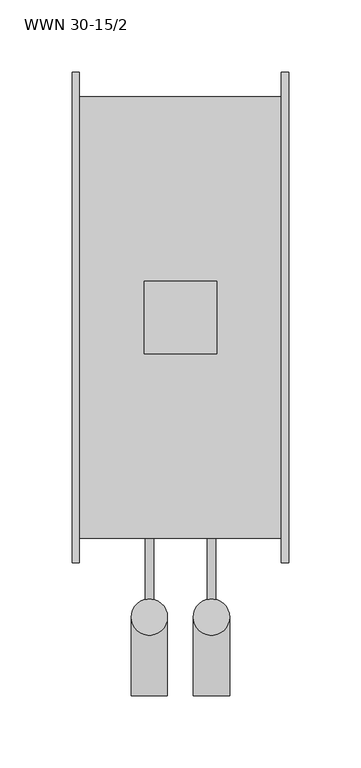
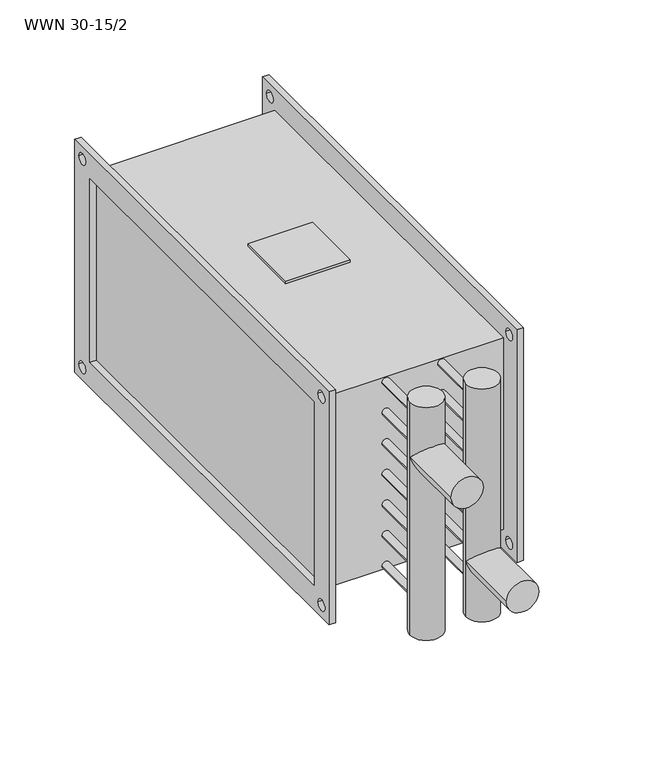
"""IFC4 building model written with IfcOpenShell, lengths in millimetres: proxy geometry, KORF_Нагреватель_Водяной_WWN : WWN 30-15/2."""

import ifcopenshell
import ifcopenshell.guid

model = None  # the IFC model being written
_history = None  # IfcOwnerHistory: only IFC2X3 demands one
_inside = {}  # id of a spatial element -> (the spatial element, [elements in it])
_under = {}  # id of a project, library or spatial element -> (it, [spatial elements below it])
_declared = {}  # id of a project -> (the project, [libraries it declares])
_typed = {}  # id of a type object -> (the type object, [elements of that type])
_made_of = {}  # id of a material, layer set ... -> (it, [elements and type objects made of it])


def new_model(schema):
    """Start an empty IFC model of exactly this schema.

    Asked for "IFC4X3", IfcOpenShell would pick the latest addendum, in which some entities
    have other attributes; the version numbers below select the first issue.
    IFC2X3 requires an IfcOwnerHistory on every rooted entity: one is made here for all.
    """
    global model, _history
    if schema == "IFC4X3":
        model = ifcopenshell.file(schema_version=(4, 3, 0, 0))
    else:
        model = ifcopenshell.file(schema=schema)
    _inside.clear()
    _under.clear()
    _declared.clear()
    _typed.clear()
    _made_of.clear()
    _history = None
    if model.schema == "IFC2X3":
        org = make("IfcOrganization", Name="unknown")
        user = make(
            "IfcPersonAndOrganization",
            ThePerson=make("IfcPerson", FamilyName="unknown"),
            TheOrganization=org,
        )
        app = make(
            "IfcApplication",
            ApplicationDeveloper=org,
            Version="unknown",
            ApplicationFullName="unknown",
            ApplicationIdentifier="unknown",
        )
        _history = make(
            "IfcOwnerHistory",
            OwningUser=user,
            OwningApplication=app,
            ChangeAction="ADDED",
            CreationDate=0,
        )
    return model


def make(cls, **values):
    """One entity of the class cls with the attributes given. An attribute that is None is left unset."""
    return model.create_entity(
        cls, **{name: value for name, value in values.items() if value is not None}
    )


def rooted(cls, **values):
    """An entity with a GlobalId (a new one), such as an element, a storey or a relation."""
    return make(cls, GlobalId=ifcopenshell.guid.new(), OwnerHistory=_history, **values)


def si_unit(unit_type, name, prefix=None):
    """IfcSIUnit, for example si_unit("LENGTHUNIT", "METRE", prefix="MILLI")."""
    return make("IfcSIUnit", UnitType=unit_type, Prefix=prefix, Name=name)


def assignment(units):
    """IfcUnitAssignment: the units of a project."""
    return None if units is None else make("IfcUnitAssignment", Units=units)


def point(xyz):
    """IfcCartesianPoint."""
    return None if xyz is None else make("IfcCartesianPoint", Coordinates=xyz)


def direction(xyz):
    """IfcDirection."""
    return None if xyz is None else make("IfcDirection", DirectionRatios=xyz)


def frame(location, z_axis=None, x_axis=None):
    """IfcAxis2Placement3D, a coordinate frame: its origin and axes. An axis left out is left unset."""
    return make(
        "IfcAxis2Placement3D",
        Location=point(location),
        Axis=direction(z_axis),
        RefDirection=direction(x_axis),
    )


def frame_2d(location, x_axis=None):
    """IfcAxis2Placement2D, a coordinate frame in the plane: its origin and x axis."""
    return make(
        "IfcAxis2Placement2D", Location=point(location), RefDirection=direction(x_axis)
    )


def origin():
    """The frame at (0, 0, 0) with its axes left unset."""
    return frame((0.0, 0.0, 0.0))


def place(relative_to, where):
    """IfcLocalPlacement: puts the frame where relative to a parent placement (None: the world)."""
    return make(
        "IfcLocalPlacement", PlacementRelTo=relative_to, RelativePlacement=where
    )


def context(
    kind, dimensions, precision=None, world=None, true_north=None, identifier=None
):
    """IfcGeometricRepresentationContext, for example the 3D "Model" context."""
    return make(
        "IfcGeometricRepresentationContext",
        ContextIdentifier=identifier,
        ContextType=kind,
        CoordinateSpaceDimension=dimensions,
        Precision=precision,
        WorldCoordinateSystem=world,
        TrueNorth=true_north,
    )


def project(units=None, contexts=None):
    """IfcProject with its units and contexts."""
    return rooted(
        "IfcProject",
        Name="project",
        RepresentationContexts=contexts,
        UnitsInContext=assignment(units),
    )


def spatial(cls, under=None, at=None, **own):
    """A site, building, storey or space (cls), placed at a placement, below another one or the project."""
    s = rooted(cls, ObjectPlacement=at, **own)
    if under is not None:
        _under.setdefault(under.id(), (under, []))[1].append(s)
    return s


def polyline(points):
    """IfcPolyline through the points."""
    return make("IfcPolyline", Points=[point(p) for p in points])


def circle_curve(where, radius):
    """IfcCircle in the frame where."""
    return make("IfcCircle", Position=where, Radius=radius)


def ellipse_curve(where, semi_axis1, semi_axis2):
    """IfcEllipse in the frame where."""
    return make(
        "IfcEllipse", Position=where, SemiAxis1=semi_axis1, SemiAxis2=semi_axis2
    )


def trimmed(basis, trim1, trim2, sense, master):
    """IfcTrimmedCurve: the piece of a basis curve between two trims."""
    return make(
        "IfcTrimmedCurve",
        BasisCurve=basis,
        Trim1=trim1,
        Trim2=trim2,
        SenseAgreement=sense,
        MasterRepresentation=master,
    )


def segment(curve, same_sense, transition):
    """IfcCompositeCurveSegment."""
    return make(
        "IfcCompositeCurveSegment",
        Transition=transition,
        SameSense=same_sense,
        ParentCurve=curve,
    )


def composite_curve(segments, self_intersect=None):
    """IfcCompositeCurve: segments joined end to end."""
    return make("IfcCompositeCurve", Segments=segments, SelfIntersect=self_intersect)


def outline(outer, holes=None, kind="AREA"):
    """IfcArbitraryClosedProfileDef: a profile drawn as a closed curve; with holes, ...WithVoids."""
    if holes is None:
        return make("IfcArbitraryClosedProfileDef", ProfileType=kind, OuterCurve=outer)
    return make(
        "IfcArbitraryProfileDefWithVoids",
        ProfileType=kind,
        OuterCurve=outer,
        InnerCurves=holes,
    )


def extrude(swept, where, along, depth):
    """IfcExtrudedAreaSolid: the profile swept, set in the frame where, extruded along a direction by depth."""
    return make(
        "IfcExtrudedAreaSolid",
        SweptArea=swept,
        Position=where,
        ExtrudedDirection=direction(along),
        Depth=depth,
    )


def shape(context_of_items, identifier, shape_type, items):
    """IfcShapeRepresentation: the items that make up one representation, for example the "Body"."""
    return make(
        "IfcShapeRepresentation",
        ContextOfItems=context_of_items,
        RepresentationIdentifier=identifier,
        RepresentationType=shape_type,
        Items=items,
    )


def source(mapping_origin, context_of_items, identifier, shape_type, items):
    """IfcRepresentationMap: a shape defined once, which mapped items show again and again."""
    return make(
        "IfcRepresentationMap",
        MappingOrigin=mapping_origin,
        MappedRepresentation=shape(context_of_items, identifier, shape_type, items),
    )


def transform(
    local_origin,
    x_axis=None,
    y_axis=None,
    z_axis=None,
    scale=None,
    scale2=None,
    scale3=None,
    uniform=True,
):
    """IfcCartesianTransformationOperator3D, or its non-uniform kind. x_axis, y_axis, z_axis: its Axis1, 2, 3."""
    if uniform:
        return make(
            "IfcCartesianTransformationOperator3D",
            Axis1=direction(x_axis),
            Axis2=direction(y_axis),
            LocalOrigin=point(local_origin),
            Scale=scale,
            Axis3=direction(z_axis),
        )
    return make(
        "IfcCartesianTransformationOperator3DnonUniform",
        Axis1=direction(x_axis),
        Axis2=direction(y_axis),
        LocalOrigin=point(local_origin),
        Scale=scale,
        Axis3=direction(z_axis),
        Scale2=scale2,
        Scale3=scale3,
    )


def mapped(mapping_source, mapping_target):
    """IfcMappedItem: shows the shape of a source again, moved by a transform."""
    return make(
        "IfcMappedItem", MappingSource=mapping_source, MappingTarget=mapping_target
    )


def made_of(thing, what):
    """Note that an element or type object is made of a material, layer set ...; save() writes the relation."""
    if what is not None:
        _made_of.setdefault(what.id(), (what, []))[1].append(thing)
    return thing


def element(
    cls,
    number,
    at=None,
    inside=None,
    cuts=None,
    type_object=None,
    material=None,
    context=None,
    identifier="Body",
    shape_type=None,
    held_by="IfcProductDefinitionShape",
    body=None,
    shapes=None,
    **own,
):
    """One element of the class cls, such as IfcWall. Its Tag is "e" and its number.

    at: its placement. inside: the storey or other place that contains it. cuts: it is an
    opening in that element (IfcRelVoidsElement). A single representation is given by context,
    identifier, shape_type and body (its items); several are given by shapes. held_by: the class
    of the entity that holds the representations. save() writes the other relations.
    """
    e = rooted(cls, Tag="e%d" % number, ObjectPlacement=at, **own)
    if body is not None:
        shapes = [shape(context, identifier, shape_type, body)]
    if shapes is not None:
        e.Representation = make(held_by, Representations=shapes)
    if inside is not None:
        _inside.setdefault(inside.id(), (inside, []))[1].append(e)
    if cuts is not None:
        rooted(
            "IfcRelVoidsElement", RelatingBuildingElement=cuts, RelatedOpeningElement=e
        )
    if type_object is not None:
        _typed.setdefault(type_object.id(), (type_object, []))[1].append(e)
    return made_of(e, material)


def aggregate(whole, parts):
    """IfcRelAggregates: a whole, such as a stair, and the parts it consists of."""
    return rooted("IfcRelAggregates", RelatingObject=whole, RelatedObjects=parts)


def save(model, path):
    """Write the relations noted so far, then the file.

    IfcRelAggregates (storeys below a building ...), IfcRelContainedInSpatialStructure (elements
    in a storey), IfcRelDefinesByType, IfcRelAssociatesMaterial and IfcRelDeclares: one each for
    every whole, place, type object, material and project.
    """
    for whole, parts in _under.values():
        aggregate(whole, parts)
    for where, things in _inside.values():
        rooted(
            "IfcRelContainedInSpatialStructure",
            RelatedElements=things,
            RelatingStructure=where,
        )
    for kind, things in _typed.values():
        rooted("IfcRelDefinesByType", RelatedObjects=things, RelatingType=kind)
    for what, things in _made_of.values():
        rooted("IfcRelAssociatesMaterial", RelatedObjects=things, RelatingMaterial=what)
    for by, libraries in _declared.values():
        rooted("IfcRelDeclares", RelatingContext=by, RelatedDefinitions=libraries)
    model.write(path)


def plane_surface(at):
    """IfcPlane: the flat surface through the origin of the frame at, square to its z axis."""
    return make("IfcPlane", Position=at)


def cylinder_surface(at, radius):
    """IfcCylindricalSurface: all points at the distance radius from the z axis of the frame at."""
    return make("IfcCylindricalSurface", Position=at, Radius=radius)


def advanced_brep(points, edges, surfaces, faces):
    """IfcAdvancedBrep: a solid bounded by faces that lie on surfaces and meet in shared edges.

    An edge is (start, end): straight between two places in points (the first is 0);
    or (start, end, curve); or (start, end, curve, False) where it runs against its curve.
    A face is (place in surfaces, loops), or (place, loops, False) where it looks against
    its surface's normal. A loop lists edges by number (the first is 1), with a minus sign
    where the edge is run from its end to its start. The first loop is the outer one.
    """
    corners = [point(p) for p in points]
    vertices = [make("IfcVertexPoint", VertexGeometry=c) for c in corners]
    made = []
    for start, end, *more in edges:
        made.append(
            make(
                "IfcEdgeCurve",
                EdgeStart=vertices[start],
                EdgeEnd=vertices[end],
                EdgeGeometry=more[0] if more else make("IfcPolyline", Points=[corners[start], corners[end]]),
                SameSense=more[1] if len(more) > 1 else True,
            )
        )
    hull = []
    for where, loops, *sense in faces:
        bounds = []
        for j, loop in enumerate(loops):
            ring = [make("IfcOrientedEdge", EdgeElement=made[abs(k) - 1], Orientation=k > 0) for k in loop]
            bounds.append(
                make(
                    "IfcFaceOuterBound" if j == 0 else "IfcFaceBound",
                    Bound=make("IfcEdgeLoop", EdgeList=ring),
                    Orientation=True,
                )
            )
        hull.append(make("IfcAdvancedFace", Bounds=bounds, FaceSurface=surfaces[where], SameSense=sense[0] if sense else True))
    return make("IfcAdvancedBrep", Outer=make("IfcClosedShell", CfsFaces=hull))


def wwn_30_15_2_497b38e8(model_context):
    return source(origin(), model_context, "Body", "SolidModel", [
        extrude(outline(polyline([(50.0, -25.0), (50.0, 25.0), (100.0, 25.0), (100.0, -25.0), (50.0, -25.0)])), frame((0.0, 0.0, 78.0), z_axis=(0.0, 0.0, 1.0), x_axis=(1.0, 0.0, 0.0)), (0.0, 0.0, 1.0), 2.0),
        extrude(outline(polyline([(-170.0, 95.0), (170.0, 95.0), (170.0, -95.0), (-170.0, -95.0), (-170.0, 95.0)]), holes=[polyline([(-150.0, 75.0), (-150.0, -75.0), (150.0, -75.0), (150.0, 75.0), (-150.0, 75.0)]), composite_curve([segment(trimmed(circle_curve(frame_2d((160.0, 85.0)), 4.5), [point((155.5, 85.0))], [point((164.5, 85.0))], True, "CARTESIAN"), True, "CONTINUOUS"), segment(trimmed(circle_curve(frame_2d((160.0, 85.0)), 4.5), [point((164.5, 85.0))], [point((155.5, 85.0))], True, "CARTESIAN"), True, "CONTINUOUS")], self_intersect=False), composite_curve([segment(trimmed(circle_curve(frame_2d((-160.0, 85.0)), 4.5), [point((-164.5, 85.0))], [point((-155.5, 85.0))], True, "CARTESIAN"), True, "CONTINUOUS"), segment(trimmed(circle_curve(frame_2d((-160.0, 85.0)), 4.5), [point((-155.5, 85.0))], [point((-164.5, 85.0))], True, "CARTESIAN"), True, "CONTINUOUS")], self_intersect=False), composite_curve([segment(trimmed(circle_curve(frame_2d((-160.0, -85.0)), 4.5), [point((-164.5, -85.0))], [point((-155.5, -85.0))], True, "CARTESIAN"), True, "CONTINUOUS"), segment(trimmed(circle_curve(frame_2d((-160.0, -85.0)), 4.5), [point((-155.5, -85.0))], [point((-164.5, -85.0))], True, "CARTESIAN"), True, "CONTINUOUS")], self_intersect=False), composite_curve([segment(trimmed(circle_curve(frame_2d((160.0, -85.0)), 4.5), [point((155.5, -85.0))], [point((164.5, -85.0))], True, "CARTESIAN"), True, "CONTINUOUS"), segment(trimmed(circle_curve(frame_2d((160.0, -85.0)), 4.5), [point((164.5, -85.0))], [point((155.5, -85.0))], True, "CARTESIAN"), True, "CONTINUOUS")], self_intersect=False)]), frame((145.0, 0.0, 0.0), z_axis=(1.0, 0.0, 0.0), x_axis=(0.0, 1.0, 0.0)), (0.0, 0.0, 1.0), 5.0),
        extrude(outline(polyline([(-170.0, 95.0), (170.0, 95.0), (170.0, -95.0), (-170.0, -95.0), (-170.0, 95.0)]), holes=[polyline([(-150.0, 75.0), (-150.0, -75.0), (150.0, -75.0), (150.0, 75.0), (-150.0, 75.0)]), composite_curve([segment(trimmed(circle_curve(frame_2d((160.0, 85.0)), 4.5), [point((155.5, 85.0))], [point((164.5, 85.0))], True, "CARTESIAN"), True, "CONTINUOUS"), segment(trimmed(circle_curve(frame_2d((160.0, 85.0)), 4.5), [point((164.5, 85.0))], [point((155.5, 85.0))], True, "CARTESIAN"), True, "CONTINUOUS")], self_intersect=False), composite_curve([segment(trimmed(circle_curve(frame_2d((-160.0, 85.0)), 4.5), [point((-164.5, 85.0))], [point((-155.5, 85.0))], True, "CARTESIAN"), True, "CONTINUOUS"), segment(trimmed(circle_curve(frame_2d((-160.0, 85.0)), 4.5), [point((-155.5, 85.0))], [point((-164.5, 85.0))], True, "CARTESIAN"), True, "CONTINUOUS")], self_intersect=False), composite_curve([segment(trimmed(circle_curve(frame_2d((-160.0, -85.0)), 4.5), [point((-164.5, -85.0))], [point((-155.5, -85.0))], True, "CARTESIAN"), True, "CONTINUOUS"), segment(trimmed(circle_curve(frame_2d((-160.0, -85.0)), 4.5), [point((-155.5, -85.0))], [point((-164.5, -85.0))], True, "CARTESIAN"), True, "CONTINUOUS")], self_intersect=False), composite_curve([segment(trimmed(circle_curve(frame_2d((160.0, -85.0)), 4.5), [point((155.5, -85.0))], [point((164.5, -85.0))], True, "CARTESIAN"), True, "CONTINUOUS"), segment(trimmed(circle_curve(frame_2d((160.0, -85.0)), 4.5), [point((164.5, -85.0))], [point((155.5, -85.0))], True, "CARTESIAN"), True, "CONTINUOUS")], self_intersect=False)]), frame((0.0, 0.0, 0.0), z_axis=(1.0, 0.0, 0.0), x_axis=(0.0, 1.0, 0.0)), (0.0, 0.0, 1.0), 5.0),
        extrude(outline(polyline([(145.0, 153.0), (145.0, -153.0), (5.0, -153.0), (5.0, 153.0), (145.0, 153.0)])), frame((0.0, 0.0, -78.0), z_axis=(0.0, 0.0, 1.0), x_axis=(1.0, 0.0, 0.0)), (0.0, 0.0, 1.0), 156.0),
        advanced_brep(
        [(41.0, -262.0, 50.0), (66.0, -262.0, 50.0), (41.0, -207.5, 50.0), (66.0, -207.5, 50.0), (41.0, -207.5, 95.0), (66.0, -207.5, 95.0), (41.0, -207.5, -95.0), (66.0, -207.5, -95.0)],
        [
            (0, 1, circle_curve(frame((53.5, -262.0, 50.0), z_axis=(0.0, -1.0, 0.0), x_axis=(1.0, 0.0, 0.0)), 12.5)),
            (1, 0, circle_curve(frame((53.5, -262.0, 50.0), z_axis=(0.0, -1.0, 0.0), x_axis=(1.0, 0.0, 0.0)), 12.5)),
            (0, 2),
            (2, 3, ellipse_curve(frame((53.5, -207.5, 50.0), z_axis=(0.0, -0.7071067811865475, 0.7071067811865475), x_axis=(0.0, -0.7071067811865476, -0.7071067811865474)), 17.6776695, 12.5)),
            (3, 1),
            (3, 2, ellipse_curve(frame((53.5, -207.5, 50.0), z_axis=(0.0, -0.7071067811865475, -0.7071067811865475), x_axis=(0.0, -0.7071067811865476, 0.7071067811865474)), 17.6776695, 12.5)),
            (4, 5, circle_curve(frame((53.5, -207.5, 95.0), z_axis=(0.0, 0.0, 1.0), x_axis=(1.0, 0.0, 0.0)), 12.5)),
            (5, 4, circle_curve(frame((53.5, -207.5, 95.0), z_axis=(0.0, 0.0, 1.0), x_axis=(1.0, 0.0, 0.0)), 12.5)),
            (6, 7, circle_curve(frame((53.5, -207.5, -95.0), z_axis=(0.0, 0.0, -1.0), x_axis=(1.0, 0.0, 0.0)), 12.5)),
            (7, 6, circle_curve(frame((53.5, -207.5, -95.0), z_axis=(0.0, 0.0, -1.0), x_axis=(1.0, 0.0, 0.0)), 12.5)),
            (4, 2),
            (3, 5),
            (7, 3),
            (2, 6),
        ],
        [
            plane_surface(frame((66.0, -262.0, 50.0), z_axis=(0.0, -1.0, 0.0), x_axis=(0.0, 0.0, 1.0))),
            cylinder_surface(frame((53.5, -207.5, 50.0), z_axis=(0.0, -1.0, 0.0), x_axis=(1.0, 0.0, 0.0)), 12.5),
            plane_surface(frame((66.0, -207.5, 95.0), z_axis=(0.0, 0.0, 1.0), x_axis=(0.0, 1.0, 0.0))),
            plane_surface(frame((66.0, -207.5, -95.0), z_axis=(0.0, 0.0, -1.0), x_axis=(0.0, -1.0, 0.0))),
            cylinder_surface(frame((53.5, -207.5, -95.0), z_axis=(0.0, 0.0, 1.0), x_axis=(1.0, 0.0, 0.0)), 12.5),
        ],
        [
            (0, [[1, 2]]),
            (1, [[-1, 3, 4, 5]]),
            (1, [[-2, -5, 6, -3]]),
            (2, [[7, 8]]),
            (3, [[9, 10]]),
            (4, [[-7, 11, -6, 12]]),
            (4, [[-10, 13, -4, 14]]),
            (4, [[-8, -12, -13, -9, -14, -11]]),
        ],
    ),
        advanced_brep(
        [(84.0, -262.0, -50.0), (109.0, -262.0, -50.0), (84.0, -207.5, -50.0), (109.0, -207.5, -50.0), (84.0, -207.5, 95.0), (109.0, -207.5, 95.0), (84.0, -207.5, -95.0), (109.0, -207.5, -95.0)],
        [
            (0, 1, circle_curve(frame((96.5, -262.0, -50.0), z_axis=(0.0, -1.0, 0.0), x_axis=(1.0, 0.0, 0.0)), 12.5)),
            (1, 0, circle_curve(frame((96.5, -262.0, -50.0), z_axis=(0.0, -1.0, 0.0), x_axis=(1.0, 0.0, 0.0)), 12.5)),
            (0, 2),
            (2, 3, ellipse_curve(frame((96.5, -207.5, -50.0), z_axis=(0.0, -0.7071067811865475, 0.7071067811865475), x_axis=(0.0, -0.7071067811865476, -0.7071067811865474)), 17.6776695, 12.5)),
            (3, 1),
            (3, 2, ellipse_curve(frame((96.5, -207.5, -50.0), z_axis=(0.0, -0.7071067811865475, -0.7071067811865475), x_axis=(0.0, -0.7071067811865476, 0.7071067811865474)), 17.6776695, 12.5)),
            (4, 5, circle_curve(frame((96.5, -207.5, 95.0), z_axis=(0.0, 0.0, 1.0), x_axis=(1.0, 0.0, 0.0)), 12.5)),
            (5, 4, circle_curve(frame((96.5, -207.5, 95.0), z_axis=(0.0, 0.0, 1.0), x_axis=(1.0, 0.0, 0.0)), 12.5)),
            (6, 7, circle_curve(frame((96.5, -207.5, -95.0), z_axis=(0.0, 0.0, -1.0), x_axis=(1.0, 0.0, 0.0)), 12.5)),
            (7, 6, circle_curve(frame((96.5, -207.5, -95.0), z_axis=(0.0, 0.0, -1.0), x_axis=(1.0, 0.0, 0.0)), 12.5)),
            (4, 2),
            (3, 5),
            (7, 3),
            (2, 6),
        ],
        [
            plane_surface(frame((66.0, -262.0, 50.0), z_axis=(0.0, -1.0, 0.0), x_axis=(0.0, 0.0, 1.0))),
            cylinder_surface(frame((96.5, 0.0, -50.0), z_axis=(0.0, -1.0, 0.0), x_axis=(1.0, 0.0, 0.0)), 12.5),
            plane_surface(frame((66.0, -207.5, 95.0), z_axis=(0.0, 0.0, 1.0), x_axis=(0.0, 1.0, 0.0))),
            plane_surface(frame((66.0, -207.5, -95.0), z_axis=(0.0, 0.0, -1.0), x_axis=(0.0, -1.0, 0.0))),
            cylinder_surface(frame((96.5, -207.5, 0.0), z_axis=(0.0, 0.0, 1.0), x_axis=(1.0, 0.0, 0.0)), 12.5),
        ],
        [
            (0, [[1, 2]]),
            (1, [[-1, 3, 4, 5]]),
            (1, [[-2, -5, 6, -3]]),
            (2, [[7, 8]]),
            (3, [[9, 10]]),
            (4, [[-7, 11, -6, 12]]),
            (4, [[-10, 13, -4, 14]]),
            (4, [[-8, -12, -13, -9, -14, -11]]),
        ],
    ),
        extrude(outline(composite_curve([segment(trimmed(circle_curve(frame_2d((75.0, 53.5)), 3.0), [point((75.0, 50.5))], [point((75.0, 56.5))], False, "CARTESIAN"), True, "CONTINUOUS"), segment(trimmed(circle_curve(frame_2d((75.0, 53.5)), 3.0), [point((75.0, 56.5))], [point((75.0, 50.5))], False, "CARTESIAN"), True, "CONTINUOUS")], self_intersect=False)), frame((0.0, -207.5, 0.0), z_axis=(0.0, 1.0, 0.0), x_axis=(0.0, 0.0, 1.0)), (0.0, 0.0, 1.0), 54.5),
        extrude(outline(composite_curve([segment(trimmed(circle_curve(frame_2d((50.0, 53.5)), 3.0), [point((50.0, 50.5))], [point((50.0, 56.5))], False, "CARTESIAN"), True, "CONTINUOUS"), segment(trimmed(circle_curve(frame_2d((50.0, 53.5)), 3.0), [point((50.0, 56.5))], [point((50.0, 50.5))], False, "CARTESIAN"), True, "CONTINUOUS")], self_intersect=False)), frame((0.0, -207.5, 0.0), z_axis=(0.0, 1.0, 0.0), x_axis=(0.0, 0.0, 1.0)), (0.0, 0.0, 1.0), 54.5),
        extrude(outline(composite_curve([segment(trimmed(circle_curve(frame_2d((25.0, 53.5)), 3.0), [point((25.0, 50.5))], [point((25.0, 56.5))], False, "CARTESIAN"), True, "CONTINUOUS"), segment(trimmed(circle_curve(frame_2d((25.0, 53.5)), 3.0), [point((25.0, 56.5))], [point((25.0, 50.5))], False, "CARTESIAN"), True, "CONTINUOUS")], self_intersect=False)), frame((0.0, -207.5, 0.0), z_axis=(0.0, 1.0, 0.0), x_axis=(0.0, 0.0, 1.0)), (0.0, 0.0, 1.0), 54.5),
        extrude(outline(composite_curve([segment(trimmed(circle_curve(frame_2d((0.0, 53.5)), 3.0), [point((0.0, 50.5))], [point((0.0, 56.5))], False, "CARTESIAN"), True, "CONTINUOUS"), segment(trimmed(circle_curve(frame_2d((0.0, 53.5)), 3.0), [point((0.0, 56.5))], [point((0.0, 50.5))], False, "CARTESIAN"), True, "CONTINUOUS")], self_intersect=False)), frame((0.0, -207.5, 0.0), z_axis=(0.0, 1.0, 0.0), x_axis=(0.0, 0.0, 1.0)), (0.0, 0.0, 1.0), 54.5),
        extrude(outline(composite_curve([segment(trimmed(circle_curve(frame_2d((-25.0, 53.5)), 3.0), [point((-25.0, 50.5))], [point((-25.0, 56.5))], False, "CARTESIAN"), True, "CONTINUOUS"), segment(trimmed(circle_curve(frame_2d((-25.0, 53.5)), 3.0), [point((-25.0, 56.5))], [point((-25.0, 50.5))], False, "CARTESIAN"), True, "CONTINUOUS")], self_intersect=False)), frame((0.0, -207.5, 0.0), z_axis=(0.0, 1.0, 0.0), x_axis=(0.0, 0.0, 1.0)), (0.0, 0.0, 1.0), 54.5),
        extrude(outline(composite_curve([segment(trimmed(circle_curve(frame_2d((-50.0, 53.5)), 3.0), [point((-50.0, 50.5))], [point((-50.0, 56.5))], False, "CARTESIAN"), True, "CONTINUOUS"), segment(trimmed(circle_curve(frame_2d((-50.0, 53.5)), 3.0), [point((-50.0, 56.5))], [point((-50.0, 50.5))], False, "CARTESIAN"), True, "CONTINUOUS")], self_intersect=False)), frame((0.0, -207.5, 0.0), z_axis=(0.0, 1.0, 0.0), x_axis=(0.0, 0.0, 1.0)), (0.0, 0.0, 1.0), 54.5),
        extrude(outline(composite_curve([segment(trimmed(circle_curve(frame_2d((-50.0, 96.5)), 3.0), [point((-50.0, 93.5))], [point((-50.0, 99.5))], False, "CARTESIAN"), True, "CONTINUOUS"), segment(trimmed(circle_curve(frame_2d((-50.0, 96.5)), 3.0), [point((-50.0, 99.5))], [point((-50.0, 93.5))], False, "CARTESIAN"), True, "CONTINUOUS")], self_intersect=False)), frame((0.0, -207.5, 0.0), z_axis=(0.0, 1.0, 0.0), x_axis=(0.0, 0.0, 1.0)), (0.0, 0.0, 1.0), 54.5),
        extrude(outline(composite_curve([segment(trimmed(circle_curve(frame_2d((-25.0, 96.5)), 3.0), [point((-25.0, 93.5))], [point((-25.0, 99.5))], False, "CARTESIAN"), True, "CONTINUOUS"), segment(trimmed(circle_curve(frame_2d((-25.0, 96.5)), 3.0), [point((-25.0, 99.5))], [point((-25.0, 93.5))], False, "CARTESIAN"), True, "CONTINUOUS")], self_intersect=False)), frame((0.0, -207.5, 0.0), z_axis=(0.0, 1.0, 0.0), x_axis=(0.0, 0.0, 1.0)), (0.0, 0.0, 1.0), 54.5),
        extrude(outline(composite_curve([segment(trimmed(circle_curve(frame_2d((0.0, 96.5)), 3.0), [point((0.0, 93.5))], [point((0.0, 99.5))], False, "CARTESIAN"), True, "CONTINUOUS"), segment(trimmed(circle_curve(frame_2d((0.0, 96.5)), 3.0), [point((0.0, 99.5))], [point((0.0, 93.5))], False, "CARTESIAN"), True, "CONTINUOUS")], self_intersect=False)), frame((0.0, -207.5, 0.0), z_axis=(0.0, 1.0, 0.0), x_axis=(0.0, 0.0, 1.0)), (0.0, 0.0, 1.0), 54.5),
        extrude(outline(composite_curve([segment(trimmed(circle_curve(frame_2d((25.0, 96.5)), 3.0), [point((25.0, 93.5))], [point((25.0, 99.5))], False, "CARTESIAN"), True, "CONTINUOUS"), segment(trimmed(circle_curve(frame_2d((25.0, 96.5)), 3.0), [point((25.0, 99.5))], [point((25.0, 93.5))], False, "CARTESIAN"), True, "CONTINUOUS")], self_intersect=False)), frame((0.0, -207.5, 0.0), z_axis=(0.0, 1.0, 0.0), x_axis=(0.0, 0.0, 1.0)), (0.0, 0.0, 1.0), 54.5),
        extrude(outline(composite_curve([segment(trimmed(circle_curve(frame_2d((50.0, 96.5)), 3.0), [point((50.0, 93.5))], [point((50.0, 99.5))], False, "CARTESIAN"), True, "CONTINUOUS"), segment(trimmed(circle_curve(frame_2d((50.0, 96.5)), 3.0), [point((50.0, 99.5))], [point((50.0, 93.5))], False, "CARTESIAN"), True, "CONTINUOUS")], self_intersect=False)), frame((0.0, -207.5, 0.0), z_axis=(0.0, 1.0, 0.0), x_axis=(0.0, 0.0, 1.0)), (0.0, 0.0, 1.0), 54.5),
        extrude(outline(composite_curve([segment(trimmed(circle_curve(frame_2d((75.0, 96.5)), 3.0), [point((75.0, 93.5))], [point((75.0, 99.5))], False, "CARTESIAN"), True, "CONTINUOUS"), segment(trimmed(circle_curve(frame_2d((75.0, 96.5)), 3.0), [point((75.0, 99.5))], [point((75.0, 93.5))], False, "CARTESIAN"), True, "CONTINUOUS")], self_intersect=False)), frame((0.0, -207.5, 0.0), z_axis=(0.0, 1.0, 0.0), x_axis=(0.0, 0.0, 1.0)), (0.0, 0.0, 1.0), 54.5),
        extrude(outline(composite_curve([segment(trimmed(circle_curve(frame_2d((-75.0, 53.5)), 3.0), [point((-75.0, 50.5))], [point((-75.0, 56.5))], False, "CARTESIAN"), True, "CONTINUOUS"), segment(trimmed(circle_curve(frame_2d((-75.0, 53.5)), 3.0), [point((-75.0, 56.5))], [point((-75.0, 50.5))], False, "CARTESIAN"), True, "CONTINUOUS")], self_intersect=False)), frame((0.0, -207.5, 0.0), z_axis=(0.0, 1.0, 0.0), x_axis=(0.0, 0.0, 1.0)), (0.0, 0.0, 1.0), 54.5),
        extrude(outline(composite_curve([segment(trimmed(circle_curve(frame_2d((-75.0, 96.5)), 3.0), [point((-75.0, 93.5))], [point((-75.0, 99.5))], False, "CARTESIAN"), True, "CONTINUOUS"), segment(trimmed(circle_curve(frame_2d((-75.0, 96.5)), 3.0), [point((-75.0, 99.5))], [point((-75.0, 93.5))], False, "CARTESIAN"), True, "CONTINUOUS")], self_intersect=False)), frame((0.0, -207.5, 0.0), z_axis=(0.0, 1.0, 0.0), x_axis=(0.0, 0.0, 1.0)), (0.0, 0.0, 1.0), 54.5),
    ])


if __name__ == "__main__":
    model = new_model("IFC4")
    model_context = context("Model", 3, world=origin())
    ifc_project = project(units=[si_unit("LENGTHUNIT", "METRE", prefix="MILLI")], contexts=[model_context])
    site = spatial("IfcSite", under=ifc_project)
    building = spatial("IfcBuilding", under=site)
    placement = place(None, origin())
    wwn_30_15_2_shape = wwn_30_15_2_497b38e8(model_context)
    element("IfcBuildingElementProxy", 1, Name="KORF_Нагреватель_Водяной_WWN : WWN 30-15/2", ObjectType="KORF_Нагреватель_Водяной_WWN : WWN 30-15/2", at=placement, inside=building, context=model_context, shape_type="MappedRepresentation", body=[
        mapped(wwn_30_15_2_shape, transform((0.0, 0.0, 0.0), x_axis=(1.0, 0.0, 0.0), y_axis=(0.0, 1.0, 0.0), z_axis=(0.0, 0.0, 1.0))),
    ])
    save(model, "model.ifc")
